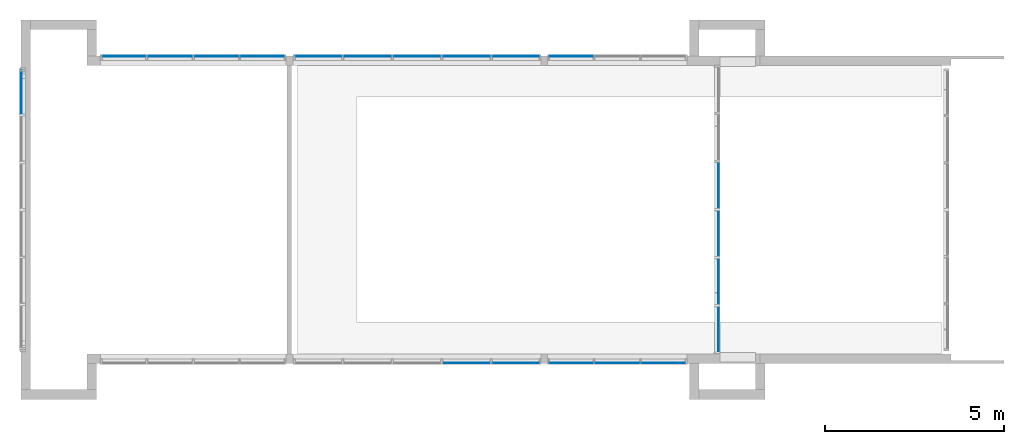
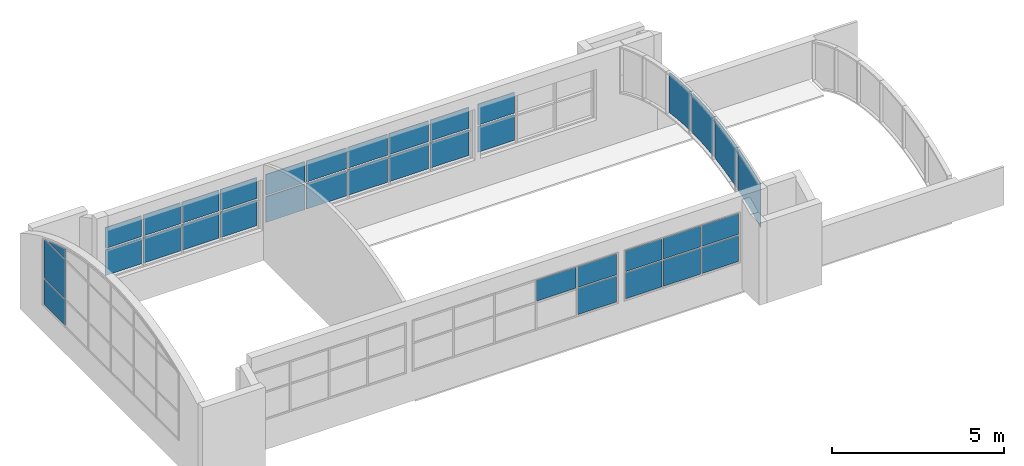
# One storey, part 10 of 14: 36 plates, 7 elements without a shape of their own.
"""IFC2X3 building model written with IfcOpenShell, lengths in metres."""

from ifc_helpers import new_model, entity, si_unit, converted_unit, frame, frame_2d, origin, origin_2d_with_axis, place, context, project, spatial, polyline, circle_curve, parameter, trimmed, segment, composite_curve, rectangle, outline, extrude, source, transform, mapped, material, type_object, type_shapes, element, aggregate, save


model = new_model("IFC2X3")

# Units and contexts
model_context = context("Model", 3, precision=1e-09, world=origin())
plan_context = context("Plan", 3, precision=1e-09, world=origin())
ifc_project = project(units=[si_unit("LENGTHUNIT", "METRE"), si_unit("AREAUNIT", "SQUARE_METRE"), si_unit("VOLUMEUNIT", "CUBIC_METRE"), converted_unit("PLANEANGLEUNIT", "DEGREE", entity("IfcRatioMeasure", 0.01745329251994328), si_unit("PLANEANGLEUNIT", "RADIAN"), dimensions=[0, 0, 0, 0, 0, 0, 0]), si_unit("TIMEUNIT", "SECOND")], contexts=[model_context, plan_context])

# Site, building, storey
site_placement = place(None, origin())
site = spatial("IfcSite", under=ifc_project, at=site_placement, Name="Default", CompositionType="ELEMENT")
building_placement = place(site_placement, origin())
building = spatial("IfcBuilding", under=site, at=building_placement, CompositionType="ELEMENT")
storey_placement = place(building_placement, frame((0.0, 0.0, 9.25000000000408)))
storey = spatial("IfcBuildingStorey", under=building, at=storey_placement, Name="Roof - Main", CompositionType="ELEMENT", Elevation=9.25000000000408)

# Curtain wall, plates
curtain_wall_1_placement = place(storey_placement, origin())
curtain_wall_1 = element("IfcCurtainWall", 1, at=curtain_wall_1_placement, inside=storey, Name="Curtain Wall:Storefront", ObjectType="Curtain Wall:Storefront")
ifc_material = material(Name="Glass")
plate_type_1 = type_object("IfcPlateType", Name="Glazed", PredefinedType="CURTAIN_PANEL")
shared_shape_1 = source(origin(), model_context, "Body", "SweptSolid", [
    extrude(outline(composite_curve([segment(polyline([(-0.4578003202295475, -0.6300746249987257), (-0.4099390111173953, -0.616807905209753)]), True, "CONTINUOUS"), segment(polyline([(-0.4099390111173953, -0.616807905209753), (0.9589616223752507, -0.2373610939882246)]), True, "CONTINUOUS"), segment(trimmed(circle_curve(frame_2d((-9.172211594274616, -0.2891397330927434), x_axis=(0.9999923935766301, 0.003900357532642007)), 10.13130553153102), [parameter(0.06935148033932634)], [parameter(7.523028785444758)], True, "PARAMETER"), True, "CONTINUOUS"), segment(polyline([(0.8666369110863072, 1.076463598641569), (-0.5067739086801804, 0.6957666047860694)]), True, "CONTINUOUS"), segment(trimmed(circle_curve(frame_2d((-9.168051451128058, -0.2879865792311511), x_axis=(0.9933831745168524, 0.1148471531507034)), 8.716966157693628), [parameter(353.4051908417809)], [parameter(359.8851107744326)], True, "PARAMETER"), False, "CONTINUOUS"), segment(trimmed(circle_curve(frame_2d((-9.16805145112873, -0.2879865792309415), x_axis=(1.0, 0.0)), 8.716966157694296), [parameter(357.7509106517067)], [parameter(0.0)], True, "PARAMETER"), False, "CONTINUOUS")], self_intersect=False)), frame((0.1604804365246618, 0.02450000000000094, 0.609470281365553), z_axis=(0.0, -1.0, 0.0), x_axis=(0.2671187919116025, 0.0, 0.963663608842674)), (0.0, 0.0, -1.0), 0.02499999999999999),
])
type_shapes(plate_type_1, [shared_shape_1])
plate_1_placement = place(storey_placement, frame((-21.61957995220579, 29.68412993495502, 2.350334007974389), z_axis=(0.0, 0.0, 1.0), x_axis=(0.0, -1.0, 0.0)))
plate_1 = element("IfcPlate", 2, at=plate_1_placement, type_object=plate_type_1, material=ifc_material, Name="System Panel:Glazed:Glazed", ObjectType="Glazed", context=model_context, shape_type="MappedRepresentation", body=[
    mapped(shared_shape_1, transform((0.0, 0.0, 0.0), scale=1.0)),
])
plate_type_2 = type_object("IfcPlateType", Name="Glazed", PredefinedType="CURTAIN_PANEL")
shared_shape_2 = source(origin(), model_context, "Body", "SweptSolid", [
    extrude(outline(composite_curve([segment(trimmed(circle_curve(frame_2d((-8.637397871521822, 3.339202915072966), x_axis=(0.9509406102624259, -0.3093734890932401)), 8.716966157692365), [parameter(350.9133062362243)], [parameter(359.9341071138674)], True, "PARAMETER"), False, "CONTINUOUS"), segment(polyline([(-0.8780094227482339, -0.6328733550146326), (-0.28535798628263, -0.6328733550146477)]), True, "CONTINUOUS"), segment(polyline([(-0.28535798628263, -0.6328733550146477), (0.6784762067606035, -0.6328733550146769)]), True, "CONTINUOUS"), segment(trimmed(circle_curve(frame_2d((-8.641714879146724, 3.339202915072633), x_axis=(0.9186616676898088, -0.3950452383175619)), 10.13130553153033), [parameter(0.1860767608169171)], [parameter(7.775509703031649)], True, "PARAMETER"), True, "CONTINUOUS"), segment(polyline([(1.121436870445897, 0.6328733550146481), (-0.2853579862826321, 0.6328733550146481)]), True, "CONTINUOUS"), segment(polyline([(-0.2853579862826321, 0.6328733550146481), (-0.3511876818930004, 0.6328733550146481)]), True, "CONTINUOUS")], self_intersect=False)), frame((0.0, 0.02450000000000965, 0.8780094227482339), z_axis=(0.0, -1.0, 0.0), x_axis=(0.0, 0.0, 1.0)), (0.0, 0.0, -1.0), 0.025),
])
type_shapes(plate_type_2, [shared_shape_2])
plate_2_placement = place(storey_placement, frame((-21.6195799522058, 28.3558832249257, 1.807348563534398), z_axis=(0.0, 0.0, 1.0), x_axis=(0.0, -1.0, 0.0)))
plate_2 = element("IfcPlate", 3, at=plate_2_placement, type_object=plate_type_2, material=ifc_material, Name="System Panel:Glazed:Glazed", ObjectType="Glazed", context=model_context, shape_type="MappedRepresentation", body=[
    mapped(shared_shape_2, transform((0.0, 0.0, 0.0), scale=1.0)),
])
plate_type_3 = type_object("IfcPlateType", Name="Glazed", PredefinedType="CURTAIN_PANEL")
shared_shape_3 = source(origin(), model_context, "Body", "SweptSolid", [
    extrude(outline(composite_curve([segment(polyline([(-0.758461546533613, -0.6453733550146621), (0.6656355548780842, -0.6453733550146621)]), True, "CONTINUOUS"), segment(trimmed(circle_curve(frame_2d((-9.379847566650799, 0.670537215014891), x_axis=(1.0, -1.609420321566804e-05)), 10.13130553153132), [parameter(352.5379412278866)], [parameter(359.8586122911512)], True, "PARAMETER"), True, "CONTINUOUS"), segment(polyline([(0.7514267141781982, 0.6453733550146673), (-0.6586007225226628, 0.6453733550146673)]), True, "CONTINUOUS"), segment(trimmed(circle_curve(frame_2d((-9.375530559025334, 0.670537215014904), x_axis=(0.9879591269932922, -0.1547151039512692)), 8.716966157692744), [parameter(0.2177271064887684)], [parameter(8.734873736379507)], True, "PARAMETER"), False, "CONTINUOUS")], self_intersect=False)), frame((0.0, 0.02450000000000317, 0.7584615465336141), z_axis=(0.0, 1.0, 0.0), x_axis=(0.0, 0.0, 1.0)), (0.0, 0.0, 1.0), 0.02499999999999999),
])
type_shapes(plate_type_3, [shared_shape_3])
plate_3_placement = place(storey_placement, frame((-21.61957995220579, 32.36562335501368, 2.665029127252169), z_axis=(0.0, 0.0, 1.0), x_axis=(0.0, -1.0, 0.0)))
plate_3 = element("IfcPlate", 4, at=plate_3_placement, type_object=plate_type_3, material=ifc_material, Name="System Panel:Glazed:Glazed", ObjectType="Glazed", context=model_context, shape_type="MappedRepresentation", body=[
    mapped(shared_shape_3, transform((0.0, 0.0, 0.0), scale=1.0)),
])
plate_type_4 = type_object("IfcPlateType", Name="Glazed", PredefinedType="CURTAIN_PANEL")
shared_shape_4 = source(origin(), model_context, "Body", "SweptSolid", [
    extrude(outline(composite_curve([segment(trimmed(circle_curve(frame_2d((-9.375554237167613, 0.6702094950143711), x_axis=(1.0, 1.890626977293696e-05)), 8.716966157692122), [parameter(351.3185492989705)], [parameter(359.8356709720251)], True, "PARAMETER"), False, "CONTINUOUS"), segment(polyline([(-0.758435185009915, -0.6453733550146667), (0.6656548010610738, -0.6453733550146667)]), True, "CONTINUOUS"), segment(trimmed(circle_curve(frame_2d((-9.379871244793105, 0.6702094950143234), x_axis=(0.9912934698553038, -0.1316710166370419)), 10.13130553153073), [parameter(0.1050529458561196)], [parameter(7.425708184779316)], True, "PARAMETER"), True, "CONTINUOUS"), segment(polyline([(0.75140384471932, 0.6453733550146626), (-0.6586234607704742, 0.6453733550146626)]), True, "CONTINUOUS")], self_intersect=False)), frame((0.0, 0.02450000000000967, 0.7584351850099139), z_axis=(0.0, -1.0, 0.0), x_axis=(0.0, 0.0, 1.0)), (0.0, 0.0, -1.0), 0.025),
])
type_shapes(plate_type_4, [shared_shape_4])
plate_4_placement = place(storey_placement, frame((-21.61957995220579, 31.02487664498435, 2.665079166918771), z_axis=(0.0, 0.0, 1.0), x_axis=(0.0, -1.0, 0.0)))
plate_4 = element("IfcPlate", 5, at=plate_4_placement, type_object=plate_type_4, material=ifc_material, Name="System Panel:Glazed:Glazed", ObjectType="Glazed", context=model_context, shape_type="MappedRepresentation", body=[
    mapped(shared_shape_4, transform((0.0, 0.0, 0.0), scale=1.0)),
])
aggregate(curtain_wall_1, [plate_1, plate_2, plate_3, plate_4])

curtain_wall_2_placement = place(storey_placement, origin())
curtain_wall_2 = element("IfcCurtainWall", 6, at=curtain_wall_2_placement, inside=storey, Name="Curtain Wall:Storefront", ObjectType="Curtain Wall:Storefront")
plate_type_5 = type_object("IfcPlateType", Name="Glazed", PredefinedType="CURTAIN_PANEL")
shared_shape_5 = source(origin(), model_context, "Body", "SweptSolid", [
    extrude(rectangle(XDim=0.025, YDim=1.244395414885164, at=origin_2d_with_axis()), frame((0.0, 0.0369999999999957, 0.0), z_axis=(0.0, 0.0, 1.0), x_axis=(0.0, 1.0, 0.0)), (0.0, 0.0, 1.0), 0.9118944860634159),
])
type_shapes(plate_type_5, [shared_shape_5])
plate_5_placement = place(storey_placement, frame((-40.99000000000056, 34.98098853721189, 1.117), z_axis=(0.0, 0.0, 1.0), x_axis=(0.0, 1.0, 0.0)))
plate_5 = element("IfcPlate", 7, at=plate_5_placement, type_object=plate_type_5, material=ifc_material, Name="System Panel:Glazed:Glazed", ObjectType="Glazed", context=model_context, shape_type="MappedRepresentation", body=[
    mapped(shared_shape_5, transform((0.0, 0.0, 0.0), scale=1.0)),
])
plate_type_6 = type_object("IfcPlateType", Name="Glazed", PredefinedType="CURTAIN_PANEL")
shared_shape_6 = source(origin(), model_context, "Body", "SweptSolid", [
    extrude(outline(composite_curve([segment(polyline([(-0.896820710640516, -0.8093932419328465), (0.4662848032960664, -0.8093932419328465)]), True, "CONTINUOUS"), segment(polyline([(0.4662848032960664, -0.8093932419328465), (0.4662848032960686, 0.3838437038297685)]), True, "CONTINUOUS"), segment(polyline([(0.4662848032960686, 0.3838437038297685), (0.4449966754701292, 0.364938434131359)]), True, "CONTINUOUS"), segment(trimmed(circle_curve(frame_2d((-8.952356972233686, -3.473184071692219), x_axis=(0.9216501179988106, 0.3880219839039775)), 10.15093295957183), [parameter(359.3848983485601)], [parameter(359.8127341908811)], True, "PARAMETER"), True, "CONTINUOUS"), segment(polyline([(0.4160751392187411, 0.435002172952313), (-0.896820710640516, 0.435002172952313)]), True, "CONTINUOUS"), segment(polyline([(-0.896820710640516, 0.435002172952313), (-0.896820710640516, -0.8093932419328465)]), True, "CONTINUOUS")], self_intersect=False)), frame((0.1871955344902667, 0.02450000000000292, 0.896820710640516), z_axis=(0.0, 1.0, 0.0), x_axis=(0.0, 0.0, 1.0)), (0.0, 0.0, 1.0), 0.025),
])
type_shapes(plate_type_6, [shared_shape_6])
plate_6_placement = place(storey_placement, frame((-40.99000000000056, 34.98098853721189, 2.078894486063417), z_axis=(0.0, 0.0, 1.0), x_axis=(0.0, 1.0, 0.0)))
plate_6 = element("IfcPlate", 8, at=plate_6_placement, type_object=plate_type_6, material=ifc_material, Name="System Panel:Glazed:Glazed", ObjectType="Glazed", context=model_context, shape_type="MappedRepresentation", body=[
    mapped(shared_shape_6, transform((0.0, 0.0, 0.0), scale=1.0)),
])
plate_type_7 = type_object("IfcPlateType", Name="Glazed", PredefinedType="CURTAIN_PANEL")
shared_shape_7 = source(origin(), model_context, "Body", "SweptSolid", [
    extrude(outline(composite_curve([segment(polyline([(-0.1088478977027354, 0.3316444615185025), (-0.1088478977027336, -0.66328892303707)]), True, "CONTINUOUS"), segment(trimmed(circle_curve(frame_2d((-9.57748967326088, 2.995435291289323), x_axis=(0.9257625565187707, -0.3781053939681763)), 10.15093295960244), [parameter(1.089627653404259)], [parameter(7.002770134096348)], True, "PARAMETER"), True, "CONTINUOUS"), segment(polyline([(0.2176957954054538, 0.3316444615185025), (-0.1088478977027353, 0.3316444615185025)]), True, "CONTINUOUS")], self_intersect=False)), frame((-0.1658222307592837, 0.02450000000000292, 0.1088478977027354), z_axis=(0.0, -1.0, 0.0), x_axis=(0.0, 0.0, 1.0)), (0.0, 0.0, -1.0), 0.025),
])
type_shapes(plate_type_7, [shared_shape_7])
plate_7_placement = place(storey_placement, frame((-40.99000000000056, 34.8562575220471, 3.492000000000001), z_axis=(0.0, 0.0, 1.0), x_axis=(0.0, 1.0, 0.0)))
plate_7 = element("IfcPlate", 9, at=plate_7_placement, type_object=plate_type_7, material=ifc_material, Name="System Panel:Glazed:Glazed", ObjectType="Glazed", context=model_context, shape_type="MappedRepresentation", body=[
    mapped(shared_shape_7, transform((0.0, 0.0, 0.0), scale=1.0)),
])
aggregate(curtain_wall_2, [plate_5, plate_6, plate_7])

curtain_wall_3_placement = place(storey_placement, origin())
curtain_wall_3 = element("IfcCurtainWall", 10, at=curtain_wall_3_placement, inside=storey, Name="Curtain Wall:Storefront", ObjectType="Curtain Wall:Storefront")
plate_type_8 = type_object("IfcPlateType", Name="Glazed", PredefinedType="CURTAIN_PANEL")
shared_shape_8 = source(origin(), model_context, "Body", "SweptSolid", [
    extrude(rectangle(XDim=0.025, YDim=1.22, at=origin_2d_with_axis()), frame((0.0, 0.037, 0.0), z_axis=(0.0, 0.0, 1.0), x_axis=(0.0, 1.0, 0.0)), (0.0, 0.0, 1.0), 0.9118944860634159),
])
type_shapes(plate_type_8, [shared_shape_8])
plate_8_placement = place(storey_placement, frame((-38.16600000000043, 35.93490399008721, 1.117)))
plate_8 = element("IfcPlate", 11, at=plate_8_placement, type_object=plate_type_8, material=ifc_material, Name="System Panel:Glazed:Glazed", ObjectType="Glazed", context=model_context, shape_type="MappedRepresentation", body=[
    mapped(shared_shape_8, transform((0.0, 0.0, 0.0), scale=1.0)),
])
plate_9_placement = place(storey_placement, frame((-34.30600000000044, 35.93490399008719, 1.117)))
plate_9 = element("IfcPlate", 12, at=plate_9_placement, type_object=plate_type_8, material=ifc_material, Name="System Panel:Glazed:Glazed", ObjectType="Glazed", context=model_context, shape_type="MappedRepresentation", body=[
    mapped(shared_shape_8, transform((0.0, 0.0, 0.0), scale=1.0)),
])
plate_type_9 = type_object("IfcPlateType", Name="Glazed", PredefinedType="CURTAIN_PANEL")
shared_shape_9 = source(origin(), model_context, "Body", "SweptSolid", [
    extrude(rectangle(XDim=0.025, YDim=1.245000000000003, at=origin_2d_with_axis()), frame((0.0, 0.03699999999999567, 0.0), z_axis=(0.0, 0.0, 1.0), x_axis=(0.0, 1.0, 0.0)), (0.0, 0.0, 1.0), 0.9118944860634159),
])
type_shapes(plate_type_9, [shared_shape_9])
plate_10_placement = place(storey_placement, frame((-36.88350000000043, 35.9349039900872, 1.117)))
plate_10 = element("IfcPlate", 13, at=plate_10_placement, type_object=plate_type_9, material=ifc_material, Name="System Panel:Glazed:Glazed", ObjectType="Glazed", context=model_context, shape_type="MappedRepresentation", body=[
    mapped(shared_shape_9, transform((0.0, 0.0, 0.0), scale=1.0)),
])
plate_11_placement = place(storey_placement, frame((-35.58850000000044, 35.93490399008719, 1.117)))
plate_11 = element("IfcPlate", 14, at=plate_11_placement, type_object=plate_type_9, material=ifc_material, Name="System Panel:Glazed:Glazed", ObjectType="Glazed", context=model_context, shape_type="MappedRepresentation", body=[
    mapped(shared_shape_9, transform((0.0, 0.0, 0.0), scale=1.0)),
])
plate_type_10 = type_object("IfcPlateType", Name="Glazed", PredefinedType="CURTAIN_PANEL")
shared_shape_10 = source(origin(), model_context, "Body", "SweptSolid", [
    extrude(rectangle(XDim=0.025, YDim=1.22, at=origin_2d_with_axis()), frame((0.0, 0.037, 0.0), z_axis=(0.0, 0.0, 1.0), x_axis=(0.0, 1.0, 0.0)), (0.0, 0.0, 1.0), 0.7381055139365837),
])
type_shapes(plate_type_10, [shared_shape_10])
plate_12_placement = place(storey_placement, frame((-38.16600000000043, 35.93490399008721, 2.078894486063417)))
plate_12 = element("IfcPlate", 15, at=plate_12_placement, type_object=plate_type_10, material=ifc_material, Name="System Panel:Glazed:Glazed", ObjectType="Glazed", context=model_context, shape_type="MappedRepresentation", body=[
    mapped(shared_shape_10, transform((0.0, 0.0, 0.0), scale=1.0)),
])
plate_13_placement = place(storey_placement, frame((-34.30600000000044, 35.93490399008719, 2.078894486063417)))
plate_13 = element("IfcPlate", 16, at=plate_13_placement, type_object=plate_type_10, material=ifc_material, Name="System Panel:Glazed:Glazed", ObjectType="Glazed", context=model_context, shape_type="MappedRepresentation", body=[
    mapped(shared_shape_10, transform((0.0, 0.0, 0.0), scale=1.0)),
])
plate_type_11 = type_object("IfcPlateType", Name="Glazed", PredefinedType="CURTAIN_PANEL")
shared_shape_11 = source(origin(), model_context, "Body", "SweptSolid", [
    extrude(rectangle(XDim=0.025, YDim=1.245000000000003, at=origin_2d_with_axis()), frame((0.0, 0.03699999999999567, 0.0), z_axis=(0.0, 0.0, 1.0), x_axis=(0.0, 1.0, 0.0)), (0.0, 0.0, 1.0), 0.7381055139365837),
])
type_shapes(plate_type_11, [shared_shape_11])
plate_14_placement = place(storey_placement, frame((-36.88350000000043, 35.9349039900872, 2.078894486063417)))
plate_14 = element("IfcPlate", 17, at=plate_14_placement, type_object=plate_type_11, material=ifc_material, Name="System Panel:Glazed:Glazed", ObjectType="Glazed", context=model_context, shape_type="MappedRepresentation", body=[
    mapped(shared_shape_11, transform((0.0, 0.0, 0.0), scale=1.0)),
])
plate_15_placement = place(storey_placement, frame((-35.58850000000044, 35.93490399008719, 2.078894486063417)))
plate_15 = element("IfcPlate", 18, at=plate_15_placement, type_object=plate_type_11, material=ifc_material, Name="System Panel:Glazed:Glazed", ObjectType="Glazed", context=model_context, shape_type="MappedRepresentation", body=[
    mapped(shared_shape_11, transform((0.0, 0.0, 0.0), scale=1.0)),
])
aggregate(curtain_wall_3, [plate_8, plate_10, plate_11, plate_9, plate_12, plate_14, plate_15, plate_13])

curtain_wall_4_placement = place(storey_placement, origin())
curtain_wall_4 = element("IfcCurtainWall", 19, at=curtain_wall_4_placement, inside=storey, Name="Curtain Wall:Storefront", ObjectType="Curtain Wall:Storefront")
plate_type_12 = type_object("IfcPlateType", Name="Glazed", PredefinedType="CURTAIN_PANEL")
shared_shape_12 = source(origin(), model_context, "Body", "SweptSolid", [
    extrude(rectangle(XDim=0.025, YDim=1.221666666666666, at=origin_2d_with_axis()), frame((0.0, 0.03700000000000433, 0.0), z_axis=(0.0, 0.0, 1.0), x_axis=(0.0, 1.0, 0.0)), (0.0, 0.0, 1.0), 0.9118944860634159),
])
type_shapes(plate_type_12, [shared_shape_12])
plate_16_placement = place(storey_placement, frame((-25.68916666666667, 35.93490399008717, 1.117)))
plate_16 = element("IfcPlate", 20, at=plate_16_placement, type_object=plate_type_12, material=ifc_material, Name="System Panel:Glazed:Glazed", ObjectType="Glazed", context=model_context, shape_type="MappedRepresentation", body=[
    mapped(shared_shape_12, transform((0.0, 0.0, 0.0), scale=1.0)),
])
plate_type_13 = type_object("IfcPlateType", Name="Glazed", PredefinedType="CURTAIN_PANEL")
shared_shape_13 = source(origin(), model_context, "Body", "SweptSolid", [
    extrude(rectangle(XDim=0.025, YDim=1.221666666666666, at=origin_2d_with_axis()), frame((0.0, 0.03700000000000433, 0.0), z_axis=(0.0, 0.0, 1.0), x_axis=(0.0, 1.0, 0.0)), (0.0, 0.0, 1.0), 0.7381055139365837),
])
type_shapes(plate_type_13, [shared_shape_13])
plate_17_placement = place(storey_placement, frame((-25.68916666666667, 35.93490399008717, 2.078894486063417)))
plate_17 = element("IfcPlate", 21, at=plate_17_placement, type_object=plate_type_13, material=ifc_material, Name="System Panel:Glazed:Glazed", ObjectType="Glazed", context=model_context, shape_type="MappedRepresentation", body=[
    mapped(shared_shape_13, transform((0.0, 0.0, 0.0), scale=1.0)),
])
aggregate(curtain_wall_4, [plate_16, plate_17])

curtain_wall_5_placement = place(storey_placement, origin())
curtain_wall_5 = element("IfcCurtainWall", 22, at=curtain_wall_5_placement, inside=storey, Name="Curtain Wall:Storefront", ObjectType="Curtain Wall:Storefront")
plate_type_14 = type_object("IfcPlateType", Name="Glazed", PredefinedType="CURTAIN_PANEL")
shared_shape_14 = source(origin(), model_context, "Body", "SweptSolid", [
    extrude(rectangle(XDim=0.025, YDim=1.331000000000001, at=origin_2d_with_axis()), frame((0.0, 0.03699999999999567, 0.0), z_axis=(0.0, 0.0, 1.0), x_axis=(0.0, 1.0, 0.0)), (0.0, 0.0, 1.0), 0.9118944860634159),
])
type_shapes(plate_type_14, [shared_shape_14])
plate_18_placement = place(storey_placement, frame((-31.37250000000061, 35.93490399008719, 1.117)))
plate_18 = element("IfcPlate", 23, at=plate_18_placement, type_object=plate_type_14, material=ifc_material, Name="System Panel:Glazed:Glazed", ObjectType="Glazed", context=model_context, shape_type="MappedRepresentation", body=[
    mapped(shared_shape_14, transform((0.0, 0.0, 0.0), scale=1.0)),
])
plate_19_placement = place(storey_placement, frame((-29.99150000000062, 35.93490399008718, 1.117)))
plate_19 = element("IfcPlate", 24, at=plate_19_placement, type_object=plate_type_14, material=ifc_material, Name="System Panel:Glazed:Glazed", ObjectType="Glazed", context=model_context, shape_type="MappedRepresentation", body=[
    mapped(shared_shape_14, transform((0.0, 0.0, 0.0), scale=1.0)),
])
plate_20_placement = place(storey_placement, frame((-28.61050000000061, 35.93490399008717, 1.117)))
plate_20 = element("IfcPlate", 25, at=plate_20_placement, type_object=plate_type_14, material=ifc_material, Name="System Panel:Glazed:Glazed", ObjectType="Glazed", context=model_context, shape_type="MappedRepresentation", body=[
    mapped(shared_shape_14, transform((0.0, 0.0, 0.0), scale=1.0)),
])
plate_type_15 = type_object("IfcPlateType", Name="Glazed", PredefinedType="CURTAIN_PANEL")
shared_shape_15 = source(origin(), model_context, "Body", "SweptSolid", [
    extrude(rectangle(XDim=0.025, YDim=1.305999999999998, at=origin_2d_with_axis()), frame((0.0, 0.037, 0.0), z_axis=(0.0, 0.0, 1.0), x_axis=(0.0, 1.0, 0.0)), (0.0, 0.0, 1.0), 0.9118944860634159),
])
type_shapes(plate_type_15, [shared_shape_15])
plate_21_placement = place(storey_placement, frame((-27.24200000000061, 35.93490399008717, 1.117)))
plate_21 = element("IfcPlate", 26, at=plate_21_placement, type_object=plate_type_15, material=ifc_material, Name="System Panel:Glazed:Glazed", ObjectType="Glazed", context=model_context, shape_type="MappedRepresentation", body=[
    mapped(shared_shape_15, transform((0.0, 0.0, 0.0), scale=1.0)),
])
plate_22_placement = place(storey_placement, frame((-32.74100000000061, 35.93490399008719, 1.117)))
plate_22 = element("IfcPlate", 27, at=plate_22_placement, type_object=plate_type_15, material=ifc_material, Name="System Panel:Glazed:Glazed", ObjectType="Glazed", context=model_context, shape_type="MappedRepresentation", body=[
    mapped(shared_shape_15, transform((0.0, 0.0, 0.0), scale=1.0)),
])
plate_type_16 = type_object("IfcPlateType", Name="Glazed", PredefinedType="CURTAIN_PANEL")
shared_shape_16 = source(origin(), model_context, "Body", "SweptSolid", [
    extrude(rectangle(XDim=0.025, YDim=1.331000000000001, at=origin_2d_with_axis()), frame((0.0, 0.03699999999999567, 0.0), z_axis=(0.0, 0.0, 1.0), x_axis=(0.0, 1.0, 0.0)), (0.0, 0.0, 1.0), 0.7381055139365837),
])
type_shapes(plate_type_16, [shared_shape_16])
plate_23_placement = place(storey_placement, frame((-31.37250000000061, 35.93490399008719, 2.078894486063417)))
plate_23 = element("IfcPlate", 28, at=plate_23_placement, type_object=plate_type_16, material=ifc_material, Name="System Panel:Glazed:Glazed", ObjectType="Glazed", context=model_context, shape_type="MappedRepresentation", body=[
    mapped(shared_shape_16, transform((0.0, 0.0, 0.0), scale=1.0)),
])
plate_24_placement = place(storey_placement, frame((-29.99150000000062, 35.93490399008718, 2.078894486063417)))
plate_24 = element("IfcPlate", 29, at=plate_24_placement, type_object=plate_type_16, material=ifc_material, Name="System Panel:Glazed:Glazed", ObjectType="Glazed", context=model_context, shape_type="MappedRepresentation", body=[
    mapped(shared_shape_16, transform((0.0, 0.0, 0.0), scale=1.0)),
])
plate_25_placement = place(storey_placement, frame((-28.61050000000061, 35.93490399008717, 2.078894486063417)))
plate_25 = element("IfcPlate", 30, at=plate_25_placement, type_object=plate_type_16, material=ifc_material, Name="System Panel:Glazed:Glazed", ObjectType="Glazed", context=model_context, shape_type="MappedRepresentation", body=[
    mapped(shared_shape_16, transform((0.0, 0.0, 0.0), scale=1.0)),
])
plate_type_17 = type_object("IfcPlateType", Name="Glazed", PredefinedType="CURTAIN_PANEL")
shared_shape_17 = source(origin(), model_context, "Body", "SweptSolid", [
    extrude(rectangle(XDim=0.025, YDim=1.305999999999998, at=origin_2d_with_axis()), frame((0.0, 0.037, 0.0), z_axis=(0.0, 0.0, 1.0), x_axis=(0.0, 1.0, 0.0)), (0.0, 0.0, 1.0), 0.7381055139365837),
])
type_shapes(plate_type_17, [shared_shape_17])
plate_26_placement = place(storey_placement, frame((-27.24200000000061, 35.93490399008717, 2.078894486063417)))
plate_26 = element("IfcPlate", 31, at=plate_26_placement, type_object=plate_type_17, material=ifc_material, Name="System Panel:Glazed:Glazed", ObjectType="Glazed", context=model_context, shape_type="MappedRepresentation", body=[
    mapped(shared_shape_17, transform((0.0, 0.0, 0.0), scale=1.0)),
])
plate_27_placement = place(storey_placement, frame((-32.74100000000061, 35.93490399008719, 2.078894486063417)))
plate_27 = element("IfcPlate", 32, at=plate_27_placement, type_object=plate_type_17, material=ifc_material, Name="System Panel:Glazed:Glazed", ObjectType="Glazed", context=model_context, shape_type="MappedRepresentation", body=[
    mapped(shared_shape_17, transform((0.0, 0.0, 0.0), scale=1.0)),
])
aggregate(curtain_wall_5, [plate_18, plate_19, plate_20, plate_21, plate_23, plate_24, plate_25, plate_26, plate_22, plate_27])

curtain_wall_6_placement = place(storey_placement, origin())
curtain_wall_6 = element("IfcCurtainWall", 33, at=curtain_wall_6_placement, inside=storey, Name="Curtain Wall:Storefront", ObjectType="Curtain Wall:Storefront")
plate_type_18 = type_object("IfcPlateType", Name="Glazed", PredefinedType="CURTAIN_PANEL")
shared_shape_18 = source(origin(), model_context, "Body", "SweptSolid", [
    extrude(rectangle(XDim=0.02500000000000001, YDim=1.246666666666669, at=origin_2d_with_axis()), frame((0.0, -0.03700000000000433, 0.0), z_axis=(0.0, 0.0, 1.0), x_axis=(0.0, 1.0, 0.0)), (0.0, 0.0, 1.0), 0.9118944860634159),
])
type_shapes(plate_type_18, [shared_shape_18])
plate_28_placement = place(storey_placement, frame((-24.405, 27.45559600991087, 1.117)))
plate_28 = element("IfcPlate", 34, at=plate_28_placement, type_object=plate_type_18, material=ifc_material, Name="System Panel:Glazed:Glazed", ObjectType="Glazed", context=model_context, shape_type="MappedRepresentation", body=[
    mapped(shared_shape_18, transform((0.0, 0.0, 0.0), scale=1.0)),
])
plate_type_19 = type_object("IfcPlateType", Name="Glazed", PredefinedType="CURTAIN_PANEL")
shared_shape_19 = source(origin(), model_context, "Body", "SweptSolid", [
    extrude(rectangle(XDim=0.02500000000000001, YDim=1.221666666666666, at=origin_2d_with_axis()), frame((0.0, -0.03700000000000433, 0.0), z_axis=(0.0, 0.0, 1.0), x_axis=(0.0, 1.0, 0.0)), (0.0, 0.0, 1.0), 0.9118944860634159),
])
type_shapes(plate_type_19, [shared_shape_19])
plate_29_placement = place(storey_placement, frame((-23.12083333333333, 27.45559600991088, 1.117)))
plate_29 = element("IfcPlate", 35, at=plate_29_placement, type_object=plate_type_19, material=ifc_material, Name="System Panel:Glazed:Glazed", ObjectType="Glazed", context=model_context, shape_type="MappedRepresentation", body=[
    mapped(shared_shape_19, transform((0.0, 0.0, 0.0), scale=1.0)),
])
plate_30_placement = place(storey_placement, frame((-25.68916666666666, 27.45559600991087, 1.117)))
plate_30 = element("IfcPlate", 36, at=plate_30_placement, type_object=plate_type_19, material=ifc_material, Name="System Panel:Glazed:Glazed", ObjectType="Glazed", context=model_context, shape_type="MappedRepresentation", body=[
    mapped(shared_shape_19, transform((0.0, 0.0, 0.0), scale=1.0)),
])
plate_type_20 = type_object("IfcPlateType", Name="Glazed", PredefinedType="CURTAIN_PANEL")
shared_shape_20 = source(origin(), model_context, "Body", "SweptSolid", [
    extrude(rectangle(XDim=0.02500000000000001, YDim=1.246666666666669, at=origin_2d_with_axis()), frame((0.0, -0.03700000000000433, 0.0), z_axis=(0.0, 0.0, 1.0), x_axis=(0.0, 1.0, 0.0)), (0.0, 0.0, 1.0), 0.7381055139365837),
])
type_shapes(plate_type_20, [shared_shape_20])
plate_31_placement = place(storey_placement, frame((-24.405, 27.45559600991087, 2.078894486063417)))
plate_31 = element("IfcPlate", 37, at=plate_31_placement, type_object=plate_type_20, material=ifc_material, Name="System Panel:Glazed:Glazed", ObjectType="Glazed", context=model_context, shape_type="MappedRepresentation", body=[
    mapped(shared_shape_20, transform((0.0, 0.0, 0.0), scale=1.0)),
])
plate_type_21 = type_object("IfcPlateType", Name="Glazed", PredefinedType="CURTAIN_PANEL")
shared_shape_21 = source(origin(), model_context, "Body", "SweptSolid", [
    extrude(rectangle(XDim=0.02500000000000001, YDim=1.221666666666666, at=origin_2d_with_axis()), frame((0.0, -0.03700000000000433, 0.0), z_axis=(0.0, 0.0, 1.0), x_axis=(0.0, 1.0, 0.0)), (0.0, 0.0, 1.0), 0.7381055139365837),
])
type_shapes(plate_type_21, [shared_shape_21])
plate_32_placement = place(storey_placement, frame((-23.12083333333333, 27.45559600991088, 2.078894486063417)))
plate_32 = element("IfcPlate", 38, at=plate_32_placement, type_object=plate_type_21, material=ifc_material, Name="System Panel:Glazed:Glazed", ObjectType="Glazed", context=model_context, shape_type="MappedRepresentation", body=[
    mapped(shared_shape_21, transform((0.0, 0.0, 0.0), scale=1.0)),
])
plate_33_placement = place(storey_placement, frame((-25.68916666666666, 27.45559600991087, 2.078894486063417)))
plate_33 = element("IfcPlate", 39, at=plate_33_placement, type_object=plate_type_21, material=ifc_material, Name="System Panel:Glazed:Glazed", ObjectType="Glazed", context=model_context, shape_type="MappedRepresentation", body=[
    mapped(shared_shape_21, transform((0.0, 0.0, 0.0), scale=1.0)),
])
aggregate(curtain_wall_6, [plate_28, plate_29, plate_31, plate_32, plate_30, plate_33])

curtain_wall_7_placement = place(storey_placement, origin())
curtain_wall_7 = element("IfcCurtainWall", 40, at=curtain_wall_7_placement, inside=storey, Name="Curtain Wall:Storefront", ObjectType="Curtain Wall:Storefront")
plate_type_22 = type_object("IfcPlateType", Name="Glazed", PredefinedType="CURTAIN_PANEL")
shared_shape_22 = source(origin(), model_context, "Body", "SweptSolid", [
    extrude(rectangle(XDim=0.02500000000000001, YDim=1.305999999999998, at=origin_2d_with_axis()), frame((0.0, -0.037, 0.0), z_axis=(0.0, 0.0, 1.0), x_axis=(0.0, 1.0, 0.0)), (0.0, 0.0, 1.0), 0.9118944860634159),
])
type_shapes(plate_type_22, [shared_shape_22])
plate_34_placement = place(storey_placement, frame((-27.24200000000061, 27.45559600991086, 1.117)))
plate_34 = element("IfcPlate", 41, at=plate_34_placement, type_object=plate_type_22, material=ifc_material, Name="System Panel:Glazed:Glazed", ObjectType="Glazed", context=model_context, shape_type="MappedRepresentation", body=[
    mapped(shared_shape_22, transform((0.0, 0.0, 0.0), scale=1.0)),
])
plate_type_23 = type_object("IfcPlateType", Name="Glazed", PredefinedType="CURTAIN_PANEL")
shared_shape_23 = source(origin(), model_context, "Body", "SweptSolid", [
    extrude(rectangle(XDim=0.02500000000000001, YDim=1.331000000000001, at=origin_2d_with_axis()), frame((0.0, -0.03699999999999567, 0.0), z_axis=(0.0, 0.0, 1.0), x_axis=(0.0, 1.0, 0.0)), (0.0, 0.0, 1.0), 0.7381055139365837),
])
type_shapes(plate_type_23, [shared_shape_23])
plate_35_placement = place(storey_placement, frame((-28.61050000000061, 27.45559600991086, 2.078894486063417)))
plate_35 = element("IfcPlate", 42, at=plate_35_placement, type_object=plate_type_23, material=ifc_material, Name="System Panel:Glazed:Glazed", ObjectType="Glazed", context=model_context, shape_type="MappedRepresentation", body=[
    mapped(shared_shape_23, transform((0.0, 0.0, 0.0), scale=1.0)),
])
plate_type_24 = type_object("IfcPlateType", Name="Glazed", PredefinedType="CURTAIN_PANEL")
shared_shape_24 = source(origin(), model_context, "Body", "SweptSolid", [
    extrude(rectangle(XDim=0.02500000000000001, YDim=1.305999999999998, at=origin_2d_with_axis()), frame((0.0, -0.037, 0.0), z_axis=(0.0, 0.0, 1.0), x_axis=(0.0, 1.0, 0.0)), (0.0, 0.0, 1.0), 0.7381055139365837),
])
type_shapes(plate_type_24, [shared_shape_24])
plate_36_placement = place(storey_placement, frame((-27.24200000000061, 27.45559600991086, 2.078894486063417)))
plate_36 = element("IfcPlate", 43, at=plate_36_placement, type_object=plate_type_24, material=ifc_material, Name="System Panel:Glazed:Glazed", ObjectType="Glazed", context=model_context, shape_type="MappedRepresentation", body=[
    mapped(shared_shape_24, transform((0.0, 0.0, 0.0), scale=1.0)),
])
aggregate(curtain_wall_7, [plate_34, plate_35, plate_36])

save(model, "model.ifc")
